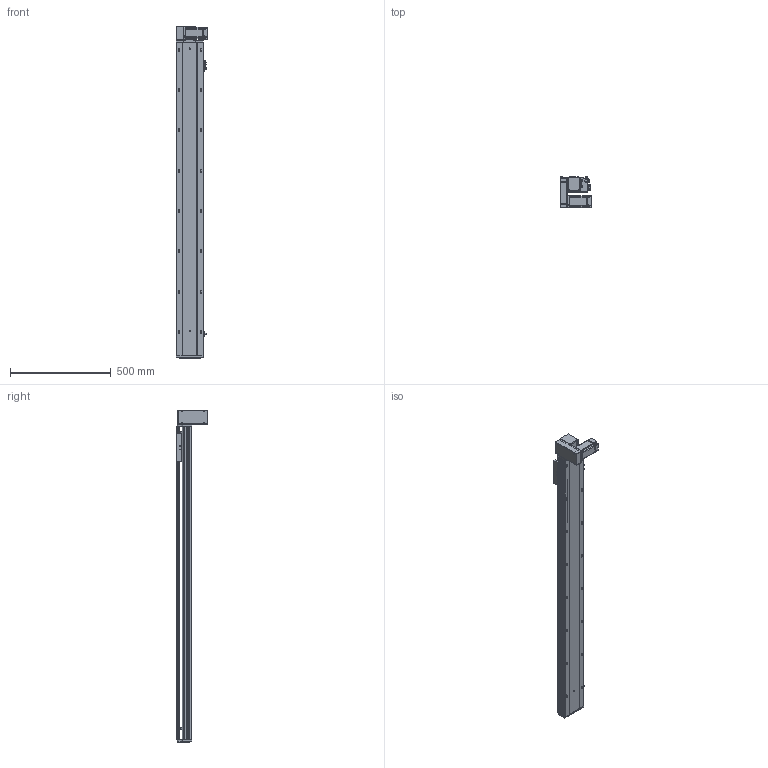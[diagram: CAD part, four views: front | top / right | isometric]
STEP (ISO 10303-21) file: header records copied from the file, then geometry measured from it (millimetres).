
FILE_DESCRIPTION (( 'STEP AP203' ), '1' );
FILE_NAME ('RY140-T-300-DL.SLDASM_1300.step', '2021-03-01T06:06:50', ( '盈信电脑' ), ( '东莞市道滘镇水果街19号' ), 'SwSTEP 2.0', 'SolidWorks 2012', '' );
FILE_SCHEMA (( 'CONFIG_CONTROL_DESIGN' ));
Length unit declared in the file: millimetre
Products named in the file (18): RY140-T-300-DL.SLDASM_1300; RY140-T翋肮謫裔啣; 滅袉蝶18-10; RY120-T蹟翐M4; RY140-T萇儂欶; RY120-T主同步轮轴承压盖; RY140-T翋肮祭謫盓傅釱; RY140-T萇儂假蚾啣; 15; 侂狟400W侜督萇儂; RY120-T肮祭湍揤踡輸2; RY120外置感应片(140共用）; 覜茼ん672; RY120-T肮祭湍揤踡輸1; RY140肮祭謫臏賑輸; RY140-T-300-DL倰第奻裔啣_1300; RY140綴裔啣; RY140-T-300-DL倰第菁釱_1300
Assembly tree (23 placements, depth 3):
  RY140-T-300-DL.SLDASM_1300
    RY140-T-300-DL倰第菁釱_1300
    RY140肮祭謫臏賑輸
    RY140-T-300-DL倰第奻裔啣_1300
    RY140綴裔啣
    覜茼ん672  x3
    RY120外置感应片(140共用）
    RY120-T肮祭湍揤踡輸2
    RY120-T肮祭湍揤踡輸1
    RY140-T翋肮祭謫盓傅釱
    RY140-T萇儂假蚾啣
    侂狟400W侜督萇儂
      15
    RY120-T主同步轮轴承压盖
    RY120-T蹟翐M4  x4
    RY140-T萇儂欶
    滅袉蝶18-10  x2
    RY140-T翋肮謫裔啣
Bounding box: 157 x 158.5 x 1646 mm (x, y, z)
Volume: 4714978.6 mm3; surface area: 1817522.3 mm2
Topology: 22 solids, 22 shells, 2738 faces, 7490 edges, 4790 vertices
Faces by surface type: plane 1385, cylinder 1011, cone 242, bspline 100
Entity records: 86416 total; most frequent: CARTESIAN_POINT 20973, ORIENTED_EDGE 13420, DIRECTION 12820, EDGE_CURVE 6710, VERTEX_POINT 4389, LINE 4274, VECTOR 4274, AXIS2_PLACEMENT_3D 4273
